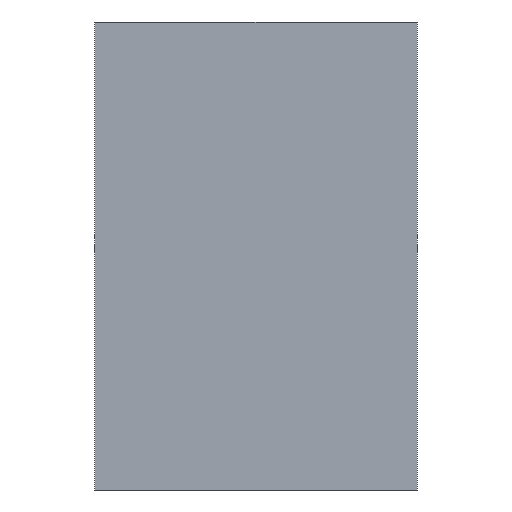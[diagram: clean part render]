
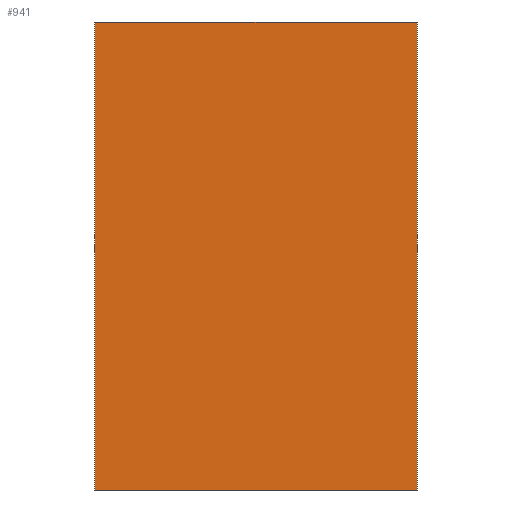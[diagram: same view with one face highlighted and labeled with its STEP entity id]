
A CAD part, front view. The second image highlights one B-rep face of the part: STEP entity #941.
In plain terms, the highlighted planar face has unit normal (0, -1, 0).
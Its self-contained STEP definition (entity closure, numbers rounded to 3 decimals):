
#16 = CARTESIAN_POINT ( 'NONE',  ( 17.25, 0., 0. ) ) ;
#59 = LINE ( 'NONE', #60, #61 ) ;
#60 = CARTESIAN_POINT ( 'NONE',  ( 17.25, 0., 0. ) ) ;
#61 = VECTOR ( 'NONE', #62, 1000. ) ;
#62 = DIRECTION ( 'NONE',  ( 1., 0., 0. ) ) ;
#84 = VERTEX_POINT ( 'NONE', #1093 ) ;
#179 = EDGE_CURVE ( 'NONE', #84, #250, #339, .T. ) ;
#186 = ORIENTED_EDGE ( 'NONE', *, *, #1022, .T. ) ;
#204 = ORIENTED_EDGE ( 'NONE', *, *, #179, .F. ) ;
#225 = EDGE_CURVE ( 'NONE', #1002, #84, #746, .T. ) ;
#250 = VERTEX_POINT ( 'NONE', #16 ) ;
#272 = EDGE_CURVE ( 'NONE', #972, #250, #59, .T. ) ;
#294 = ORIENTED_EDGE ( 'NONE', *, *, #272, .T. ) ;
#339 = LINE ( 'NONE', #340, #341 ) ;
#340 = CARTESIAN_POINT ( 'NONE',  ( 17.25, 0., 50. ) ) ;
#341 = VECTOR ( 'NONE', #342, 1000. ) ;
#342 = DIRECTION ( 'NONE',  ( 0., 0., -1. ) ) ;
#456 = CARTESIAN_POINT ( 'NONE',  ( -17.25, 0., 0. ) ) ;
#485 = ORIENTED_EDGE ( 'NONE', *, *, #225, .F. ) ;
#677 = CARTESIAN_POINT ( 'NONE',  ( -17.25, 0., 50. ) ) ;
#746 = LINE ( 'NONE', #747, #748 ) ;
#747 = CARTESIAN_POINT ( 'NONE',  ( 17.25, 0., 50. ) ) ;
#748 = VECTOR ( 'NONE', #749, 1000. ) ;
#749 = DIRECTION ( 'NONE',  ( 1., 0., 0. ) ) ;
#817 = EDGE_LOOP ( 'NONE', ( #294, #204, #485, #186 ) ) ;
#860 = LINE ( 'NONE', #861, #862 ) ;
#861 = CARTESIAN_POINT ( 'NONE',  ( -17.25, 0., 50. ) ) ;
#862 = VECTOR ( 'NONE', #863, 1000. ) ;
#863 = DIRECTION ( 'NONE',  ( 0., 0., -1. ) ) ;
#941 = ADVANCED_FACE ( 'NONE', ( #1094 ), #1095, .F. ) ;
#972 = VERTEX_POINT ( 'NONE', #456 ) ;
#1002 = VERTEX_POINT ( 'NONE', #677 ) ;
#1022 = EDGE_CURVE ( 'NONE', #1002, #972, #860, .T. ) ;
#1093 = CARTESIAN_POINT ( 'NONE',  ( 17.25, 0., 50. ) ) ;
#1094 = FACE_OUTER_BOUND ( 'NONE', #817, .T. ) ;
#1095 = PLANE ( 'NONE',  #1096 ) ;
#1096 = AXIS2_PLACEMENT_3D ( 'NONE', #1097, #1098, #1099 ) ;
#1097 = CARTESIAN_POINT ( 'NONE',  ( 17.25, 0., 50. ) ) ;
#1098 = DIRECTION ( 'NONE',  ( 0., 1., 0. ) ) ;
#1099 = DIRECTION ( 'NONE',  ( 0., 0., 1. ) ) ;
